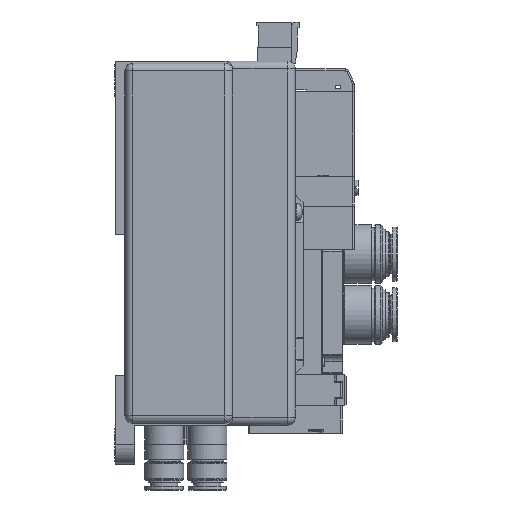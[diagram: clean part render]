
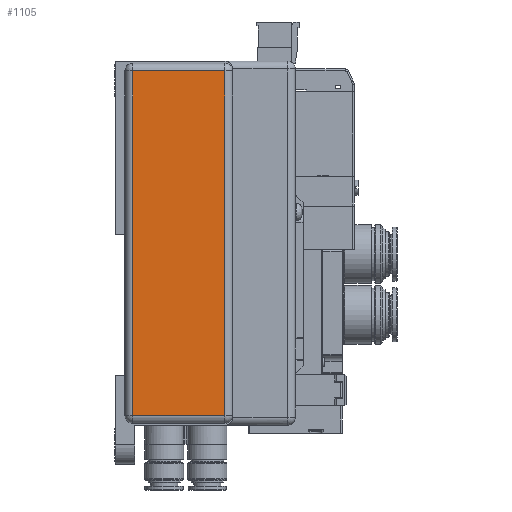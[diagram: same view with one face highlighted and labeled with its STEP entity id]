
A CAD part, left-side view. The second image highlights one B-rep face of the part: STEP entity #1105.
In plain terms, the highlighted planar face has unit normal (-1, 0, 0).
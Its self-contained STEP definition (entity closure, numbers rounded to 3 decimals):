
#1105=ADVANCED_FACE('',(#4820),#4819,.T.);
#4819=PLANE('',#18805);
#4820=FACE_OUTER_BOUND('',#18806,.T.);
#18802=CARTESIAN_POINT('',(-3.,-35.35,-37.1));
#18803=DIRECTION('',(-1.,0.,0.));
#18804=DIRECTION('',(0.,0.,1.));
#18805=AXIS2_PLACEMENT_3D('',#18802,#18803,#18804);
#18806=EDGE_LOOP('',(#28088,#28089,#28090,#28091));
#28088=ORIENTED_EDGE('',*,*,#35283,.T.);
#28089=ORIENTED_EDGE('',*,*,#35284,.T.);
#28090=ORIENTED_EDGE('',*,*,#35285,.T.);
#28091=ORIENTED_EDGE('',*,*,#35286,.T.);
#35283=EDGE_CURVE('',#43058,#43059,#43060,.T.);
#35284=EDGE_CURVE('',#43059,#42949,#43066,.T.);
#35285=EDGE_CURVE('',#42949,#43072,#43073,.T.);
#35286=EDGE_CURVE('',#43072,#43058,#43079,.T.);
#42949=VERTEX_POINT('',#67214);
#43058=VERTEX_POINT('',#67277);
#43059=VERTEX_POINT('',#67278);
#43060=LINE('',#67279,#67280);
#43066=LINE('',#67282,#67283);
#43072=VERTEX_POINT('',#67285);
#43073=LINE('',#67286,#67287);
#43079=LINE('',#67289,#67290);
#67214=CARTESIAN_POINT('',(-3.,-33.,-28.3));
#67277=CARTESIAN_POINT('',(-3.,-9.5,59.7));
#67278=CARTESIAN_POINT('',(-3.,-9.5,-28.3));
#67279=CARTESIAN_POINT('',(-3.,-9.5,59.7));
#67280=VECTOR('',#67281,88.);
#67281=DIRECTION('',(0.,0.,-1.));
#67282=CARTESIAN_POINT('',(-3.,-9.5,-28.3));
#67283=VECTOR('',#67284,23.5);
#67284=DIRECTION('',(0.,-1.,0.));
#67285=CARTESIAN_POINT('',(-3.,-33.,59.7));
#67286=CARTESIAN_POINT('',(-3.,-33.,-28.3));
#67287=VECTOR('',#67288,88.);
#67288=DIRECTION('',(0.,0.,1.));
#67289=CARTESIAN_POINT('',(-3.,-33.,59.7));
#67290=VECTOR('',#67291,23.5);
#67291=DIRECTION('',(0.,1.,0.));
